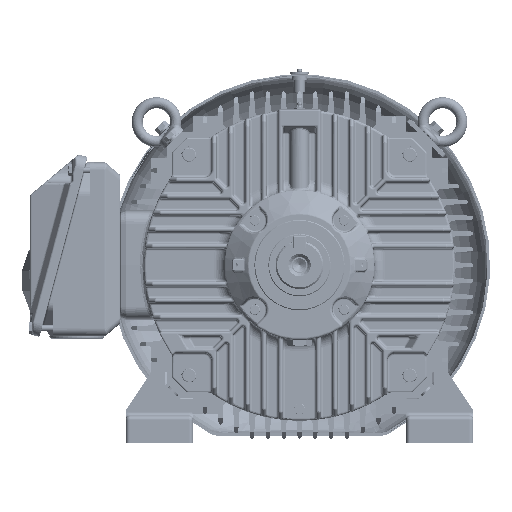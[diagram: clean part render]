
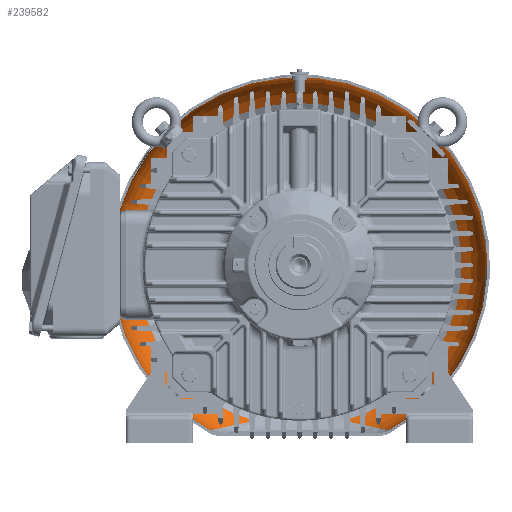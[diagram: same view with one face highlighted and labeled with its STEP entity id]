
A CAD part, front view. The second image highlights one B-rep face of the part: STEP entity #239582.
In plain terms, the highlighted toroidal (fillet/blend) face has major radius 173 mm and minor radius 65 mm.
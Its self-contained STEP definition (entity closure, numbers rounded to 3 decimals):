
#3123=B_SPLINE_CURVE_WITH_KNOTS('',3,(#357139,#357140,#357141,#357142,#357143,
#357144,#357145,#357146,#357147,#357148,#357149,#357150,#357151,#357152,
#357153,#357154,#357155,#357156,#357157,#357158,#357159,#357160,#357161,
#357162,#357163,#357164,#357165,#357166),.UNSPECIFIED.,.F.,.F.,(4,1,1,1,
1,1,1,1,1,1,1,1,1,1,1,1,1,1,1,1,1,1,1,1,1,4),(0.,0.063,0.125,0.188,0.219,
0.234,0.25,0.266,0.281,0.313,0.375,0.438,0.469,0.484,0.5,
0.516,0.531,0.563,0.625,0.688,0.719,0.75,0.781,0.813,0.875,
1.),.UNSPECIFIED.);
#3124=B_SPLINE_CURVE_WITH_KNOTS('',3,(#357170,#357171,#357172,#357173,#357174,
#357175,#357176,#357177,#357178,#357179,#357180,#357181,#357182,#357183,
#357184,#357185,#357186,#357187,#357188,#357189,#357190,#357191,#357192,
#357193,#357194,#357195,#357196,#357197),.UNSPECIFIED.,.F.,.F.,(4,1,1,1,
1,1,1,1,1,1,1,1,1,1,1,1,1,1,1,1,1,1,1,1,1,4),(0.,0.125,0.188,0.219,0.25,
0.281,0.313,0.375,0.438,0.469,0.484,0.5,0.516,0.531,0.563,
0.625,0.688,0.719,0.734,0.75,0.766,0.781,0.813,0.875,0.938,
1.),.UNSPECIFIED.);
#59673=ORIENTED_EDGE('',*,*,#99989,.T.);
#59674=ORIENTED_EDGE('',*,*,#102484,.T.);
#59675=ORIENTED_EDGE('',*,*,#102485,.F.);
#59676=ORIENTED_EDGE('',*,*,#102486,.T.);
#99989=EDGE_CURVE('',#123091,#123092,#137114,.T.);
#102484=EDGE_CURVE('',#123092,#124599,#3123,.T.);
#102485=EDGE_CURVE('',#124600,#124599,#138094,.T.);
#102486=EDGE_CURVE('',#124600,#123091,#3124,.T.);
#123091=VERTEX_POINT('',#337678);
#123092=VERTEX_POINT('',#337679);
#124599=VERTEX_POINT('',#357167);
#124600=VERTEX_POINT('',#357169);
#137114=CIRCLE('',#250954,238.);
#138094=CIRCLE('',#252775,205.5);
#144915=EDGE_LOOP('',(#59673,#59674,#59675,#59676));
#157273=FACE_BOUND('',#144915,.T.);
#166292=TOROIDAL_SURFACE('',#252774,173.,65.);
#239582=ADVANCED_FACE('',(#157273),#166292,.F.);
#250954=AXIS2_PLACEMENT_3D('',#337677,#274245,#274246);
#252774=AXIS2_PLACEMENT_3D('',#357138,#278686,#278687);
#252775=AXIS2_PLACEMENT_3D('',#357168,#278688,#278689);
#274245=DIRECTION('',(0.,-1.,0.));
#274246=DIRECTION('',(-1.,0.,0.));
#278686=DIRECTION('',(0.,-1.,0.));
#278687=DIRECTION('',(-1.,0.,0.));
#278688=DIRECTION('',(0.,-1.,0.));
#278689=DIRECTION('',(-1.,0.,0.));
#337677=CARTESIAN_POINT('',(0.,586.903,0.));
#337678=CARTESIAN_POINT('',(113.128,586.903,-209.394));
#337679=CARTESIAN_POINT('',(-113.128,586.903,-209.394));
#357138=CARTESIAN_POINT('',(0.,586.903,0.));
#357139=CARTESIAN_POINT('',(-113.128,586.903,-209.394));
#357140=CARTESIAN_POINT('',(-113.128,588.698,-209.394));
#357141=CARTESIAN_POINT('',(-112.911,592.273,-209.343));
#357142=CARTESIAN_POINT('',(-111.938,597.559,-209.119));
#357143=CARTESIAN_POINT('',(-110.601,601.868,-208.816));
#357144=CARTESIAN_POINT('',(-109.391,604.828,-208.541));
#357145=CARTESIAN_POINT('',(-108.63,606.488,-208.368));
#357146=CARTESIAN_POINT('',(-108.004,607.755,-208.225));
#357147=CARTESIAN_POINT('',(-107.406,608.889,-208.089));
#357148=CARTESIAN_POINT('',(-106.547,610.423,-207.892));
#357149=CARTESIAN_POINT('',(-104.947,613.039,-207.527));
#357150=CARTESIAN_POINT('',(-102.36,616.635,-206.938));
#357151=CARTESIAN_POINT('',(-99.406,620.015,-206.271));
#357152=CARTESIAN_POINT('',(-97.148,622.272,-205.764));
#357153=CARTESIAN_POINT('',(-95.817,623.519,-205.466));
#357154=CARTESIAN_POINT('',(-94.766,624.463,-205.231));
#357155=CARTESIAN_POINT('',(-93.799,625.296,-205.015));
#357156=CARTESIAN_POINT('',(-92.451,626.416,-204.713));
#357157=CARTESIAN_POINT('',(-90.046,628.298,-204.178));
#357158=CARTESIAN_POINT('',(-86.435,630.818,-203.38));
#357159=CARTESIAN_POINT('',(-82.617,633.111,-202.55));
#357160=CARTESIAN_POINT('',(-79.462,634.807,-201.874));
#357161=CARTESIAN_POINT('',(-77.003,636.032,-201.353));
#357162=CARTESIAN_POINT('',(-74.638,637.128,-200.857));
#357163=CARTESIAN_POINT('',(-71.399,638.524,-200.185));
#357164=CARTESIAN_POINT('',(-65.648,640.737,-199.018));
#357165=CARTESIAN_POINT('',(-60.553,642.29,-198.04));
#357166=CARTESIAN_POINT('',(-57.094,643.195,-197.409));
#357167=CARTESIAN_POINT('',(-57.094,643.195,-197.409));
#357168=CARTESIAN_POINT('',(0.,643.195,0.));
#357169=CARTESIAN_POINT('',(57.094,643.195,-197.409));
#357170=CARTESIAN_POINT('',(57.094,643.195,-197.409));
#357171=CARTESIAN_POINT('',(60.56,642.288,-198.042));
#357172=CARTESIAN_POINT('',(65.666,640.732,-199.021));
#357173=CARTESIAN_POINT('',(71.43,638.511,-200.191));
#357174=CARTESIAN_POINT('',(74.674,637.111,-200.864));
#357175=CARTESIAN_POINT('',(77.051,636.009,-201.363));
#357176=CARTESIAN_POINT('',(79.49,634.792,-201.881));
#357177=CARTESIAN_POINT('',(82.631,633.102,-202.553));
#357178=CARTESIAN_POINT('',(86.428,630.822,-203.378));
#357179=CARTESIAN_POINT('',(90.021,628.316,-204.172));
#357180=CARTESIAN_POINT('',(92.412,626.446,-204.704));
#357181=CARTESIAN_POINT('',(93.755,625.333,-205.005));
#357182=CARTESIAN_POINT('',(94.714,624.509,-205.219));
#357183=CARTESIAN_POINT('',(95.773,623.56,-205.456));
#357184=CARTESIAN_POINT('',(97.109,622.31,-205.756));
#357185=CARTESIAN_POINT('',(99.376,620.047,-206.265));
#357186=CARTESIAN_POINT('',(102.339,616.663,-206.933));
#357187=CARTESIAN_POINT('',(104.932,613.062,-207.523));
#357188=CARTESIAN_POINT('',(106.534,610.446,-207.889));
#357189=CARTESIAN_POINT('',(107.394,608.911,-208.086));
#357190=CARTESIAN_POINT('',(107.992,607.778,-208.222));
#357191=CARTESIAN_POINT('',(108.62,606.508,-208.366));
#357192=CARTESIAN_POINT('',(109.383,604.844,-208.54));
#357193=CARTESIAN_POINT('',(110.596,601.878,-208.816));
#357194=CARTESIAN_POINT('',(111.936,597.564,-209.12));
#357195=CARTESIAN_POINT('',(112.911,592.273,-209.343));
#357196=CARTESIAN_POINT('',(113.128,588.697,-209.394));
#357197=CARTESIAN_POINT('',(113.128,586.903,-209.394));
